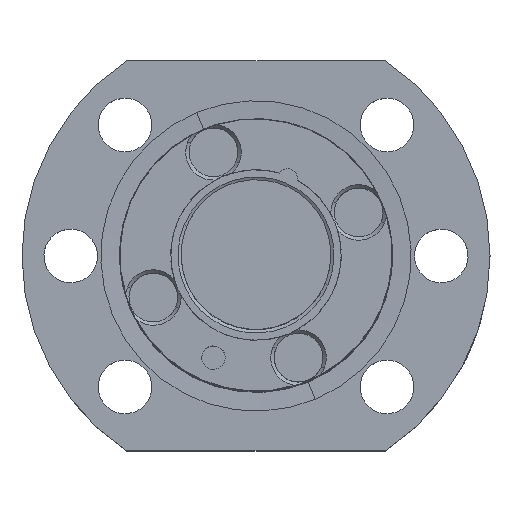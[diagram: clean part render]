
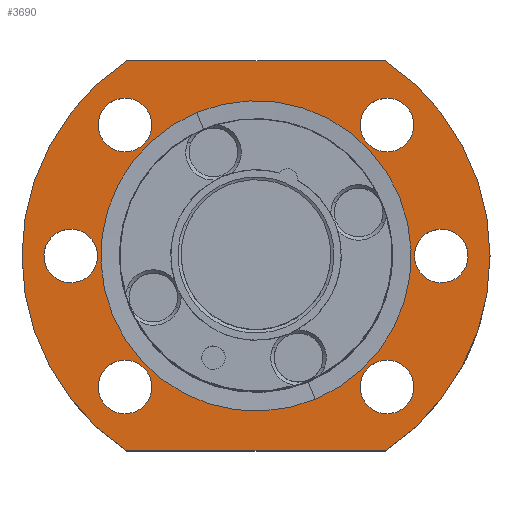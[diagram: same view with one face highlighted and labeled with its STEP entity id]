
A CAD part, top view. The second image highlights one B-rep face of the part: STEP entity #3690.
In plain terms, the highlighted planar face has unit normal (0, 0, 1).
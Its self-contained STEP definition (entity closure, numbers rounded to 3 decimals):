
#2230=CARTESIAN_POINT('',(-9.458,-9.458,12.125));
#2240=DIRECTION('',(0.,-0.,-1.));
#2250=DIRECTION('',(0.707,-0.707,0.));
#2260=AXIS2_PLACEMENT_3D('',#2230,#2240,#2250);
#2270=PLANE('',#2260);
#2280=CARTESIAN_POINT('',(-17.554,-7.271,12.125));
#2290=DIRECTION('',(0.,0.,-1.));
#2300=DIRECTION('',(0.707,-0.707,0.));
#2310=AXIS2_PLACEMENT_3D('',#2280,#2290,#2300);
#2320=CIRCLE('',#2310,2.75);
#2330=CARTESIAN_POINT('',(-15.609,-9.216,12.125));
#2340=VERTEX_POINT('',#2330);
#2350=CARTESIAN_POINT('',(-19.498,-5.326,12.125));
#2360=VERTEX_POINT('',#2350);
#2370=EDGE_CURVE('',#2340,#2360,#2320,.T.);
#2380=ORIENTED_EDGE('',*,*,#2370,.T.);
#2390=EDGE_CURVE('',#2360,#2340,#2320,.T.);
#2400=ORIENTED_EDGE('',*,*,#2390,.T.);
#2410=EDGE_LOOP('',(#2400,#2380));
#2420=FACE_BOUND('',#2410,.T.);
#2430=CARTESIAN_POINT('',(0.,0.,12.125));
#2440=DIRECTION('',(0.,0.,1.));
#2450=DIRECTION('',(-1.,0.,0.));
#2460=AXIS2_PLACEMENT_3D('',#2430,#2440,#2450);
#2470=CIRCLE('',#2460,15.916);
#2480=CARTESIAN_POINT('',(-15.916,0.,12.125));
#2490=VERTEX_POINT('',#2480);
#2500=CARTESIAN_POINT('',(15.916,0.,12.125))
;
#2510=VERTEX_POINT('',#2500);
#2520=EDGE_CURVE('',#2490,#2510,#2470,.T.);
#2530=ORIENTED_EDGE('',*,*,#2520,.F.);
#2540=EDGE_CURVE('',#2510,#2490,#2470,.T.);
#2550=ORIENTED_EDGE('',*,*,#2540,.F.);
#2560=EDGE_LOOP('',(#2550,#2530));
#2570=FACE_BOUND('',#2560,.T.);
#2580=CARTESIAN_POINT('',(-7.271,-17.554,12.125));
#2590=DIRECTION('',(0.,0.,-1.));
#2600=DIRECTION('',(0.707,-0.707,0.));
#2610=AXIS2_PLACEMENT_3D('',#2580,#2590,#2600);
#2620=CIRCLE('',#2610,2.75);
#2630=CARTESIAN_POINT('',(-5.326,-19.498,12.125));
#2640=VERTEX_POINT('',#2630);
#2650=CARTESIAN_POINT('',(-9.216,-15.609,12.125));
#2660=VERTEX_POINT('',#2650);
#2670=EDGE_CURVE('',#2640,#2660,#2620,.T.);
#2680=ORIENTED_EDGE('',*,*,#2670,.T.);
#2690=EDGE_CURVE('',#2660,#2640,#2620,.T.);
#2700=ORIENTED_EDGE('',*,*,#2690,.T.);
#2710=EDGE_LOOP('',(#2700,#2680));
#2720=FACE_BOUND('',#2710,.T.);
#2730=CARTESIAN_POINT('',(7.271,-17.554,12.125));
#2740=DIRECTION('',(0.,0.,-1.));
#2750=DIRECTION('',(0.707,-0.707,0.));
#2760=AXIS2_PLACEMENT_3D('',#2730,#2740,#2750);
#2770=CIRCLE('',#2760,2.75);
#2780=CARTESIAN_POINT('',(9.216,-19.498,12.125));
#2790=VERTEX_POINT('',#2780);
#2800=CARTESIAN_POINT('',(5.326,-15.609,12.125));
#2810=VERTEX_POINT('',#2800);
#2820=EDGE_CURVE('',#2790,#2810,#2770,.T.);
#2830=ORIENTED_EDGE('',*,*,#2820,.T.);
#2840=EDGE_CURVE('',#2810,#2790,#2770,.T.);
#2850=ORIENTED_EDGE('',*,*,#2840,.T.);
#2860=EDGE_LOOP('',(#2850,#2830));
#2870=FACE_BOUND('',#2860,.T.);
#2880=CARTESIAN_POINT('',(7.271,17.554,12.125));
#2890=DIRECTION('',(0.,0.,-1.));
#2900=DIRECTION('',(0.707,-0.707,0.));
#2910=AXIS2_PLACEMENT_3D('',#2880,#2890,#2900);
#2920=CIRCLE('',#2910,2.75);
#2930=CARTESIAN_POINT('',(9.216,15.609,12.125));
#2940=VERTEX_POINT('',#2930);
#2950=CARTESIAN_POINT('',(5.326,19.498,12.125));
#2960=VERTEX_POINT('',#2950);
#2970=EDGE_CURVE('',#2940,#2960,#2920,.T.);
#2980=ORIENTED_EDGE('',*,*,#2970,.T.);
#2990=EDGE_CURVE('',#2960,#2940,#2920,.T.);
#3000=ORIENTED_EDGE('',*,*,#2990,.T.);
#3010=EDGE_LOOP('',(#3000,#2980));
#3020=FACE_BOUND('',#3010,.T.);
#3030=CARTESIAN_POINT('',(-7.271,17.554,12.125));
#3040=DIRECTION('',(0.,0.,-1.));
#3050=DIRECTION('',(0.707,-0.707,0.));
#3060=AXIS2_PLACEMENT_3D('',#3030,#3040,#3050);
#3070=CIRCLE('',#3060,2.75);
#3080=CARTESIAN_POINT('',(-5.326,15.609,12.125));
#3090=VERTEX_POINT('',#3080);
#3100=CARTESIAN_POINT('',(-9.216,19.498,12.125));
#3110=VERTEX_POINT('',#3100);
#3120=EDGE_CURVE('',#3090,#3110,#3070,.T.);
#3130=ORIENTED_EDGE('',*,*,#3120,.T.);
#3140=EDGE_CURVE('',#3110,#3090,#3070,.T.);
#3150=ORIENTED_EDGE('',*,*,#3140,.T.);
#3160=EDGE_LOOP('',(#3150,#3130));
#3170=FACE_BOUND('',#3160,.T.);
#3180=CARTESIAN_POINT('',(17.554,7.271,12.125));
#3190=DIRECTION('',(0.,0.,-1.));
#3200=DIRECTION('',(0.707,-0.707,0.));
#3210=AXIS2_PLACEMENT_3D('',#3180,#3190,#3200);
#3220=CIRCLE('',#3210,2.75);
#3230=CARTESIAN_POINT('',(19.498,5.326,12.125));
#3240=VERTEX_POINT('',#3230);
#3250=CARTESIAN_POINT('',(15.609,9.216,12.125));
#3260=VERTEX_POINT('',#3250);
#3270=EDGE_CURVE('',#3240,#3260,#3220,.T.);
#3280=ORIENTED_EDGE('',*,*,#3270,.T.);
#3290=EDGE_CURVE('',#3260,#3240,#3220,.T.);
#3300=ORIENTED_EDGE('',*,*,#3290,.T.);
#3310=EDGE_LOOP('',(#3300,#3280));
#3320=FACE_BOUND('',#3310,.T.);
#3330=CARTESIAN_POINT('',(0.,0.,12.125));
#3340=DIRECTION('',(0.,0.,-1.));
#3350=DIRECTION('',(0.707,-0.707,0.));
#3360=AXIS2_PLACEMENT_3D('',#3330,#3340,#3350);
#3370=CIRCLE('',#3360,24.);
#3380=CARTESIAN_POINT('',(-13.401,19.91,12.125));
#3390=VERTEX_POINT('',#3380);
#3400=CARTESIAN_POINT('',(23.554,4.603,12.125));
#3410=VERTEX_POINT('',#3400);
#3420=EDGE_CURVE('',#3390,#3410,#3370,.T.);
#3430=ORIENTED_EDGE('',*,*,#3420,.F.);
#3440=CARTESIAN_POINT('',(21.648,0.,12.125));
#3450=DIRECTION('',(0.383,0.924,0.));
#3460=VECTOR('',#3450,1.);
#3470=LINE('',#3440,#3460);
#3480=CARTESIAN_POINT('',(13.401,-19.91,12.125));
#3490=VERTEX_POINT('',#3480);
#3500=EDGE_CURVE('',#3490,#3410,#3470,.T.);
#3510=ORIENTED_EDGE('',*,*,#3500,.T.);
#3520=CARTESIAN_POINT('',(0.,0.,12.125));
#3530=DIRECTION('',(0.,0.,-1.));
#3540=DIRECTION('',(0.707,-0.707,0.));
#3550=AXIS2_PLACEMENT_3D('',#3520,#3530,#3540);
#3560=CIRCLE('',#3550,24.);
#3570=CARTESIAN_POINT('',(-23.554,-4.603,12.125));
#3580=VERTEX_POINT('',#3570);
#3590=EDGE_CURVE('',#3490,#3580,#3560,.T.);
#3600=ORIENTED_EDGE('',*,*,#3590,.F.);
#3610=CARTESIAN_POINT('',(-21.648,0.,12.125));
#3620=DIRECTION('',(0.383,0.924,0.));
#3630=VECTOR('',#3620,1.);
#3640=LINE('',#3610,#3630);
#3650=EDGE_CURVE('',#3580,#3390,#3640,.T.);
#3660=ORIENTED_EDGE('',*,*,#3650,.F.);
#3670=EDGE_LOOP('',(#3660,#3600,#3510,#3430));
#3680=FACE_OUTER_BOUND('',#3670,.T.);
#3690=ADVANCED_FACE('',(#2420,#2570,#2720,#2870,#3020,#3170,#3320,#3680)
,#2270,.F.);
